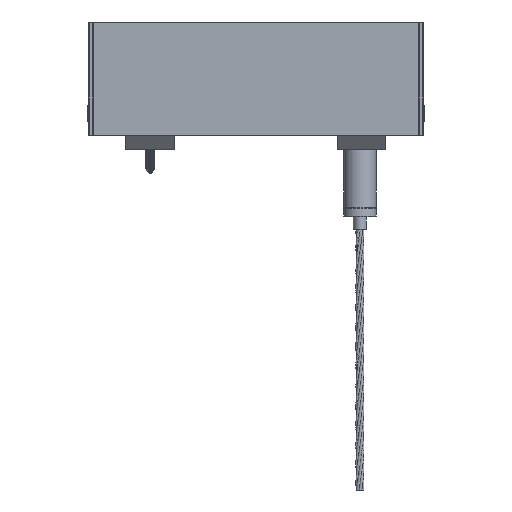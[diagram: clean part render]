
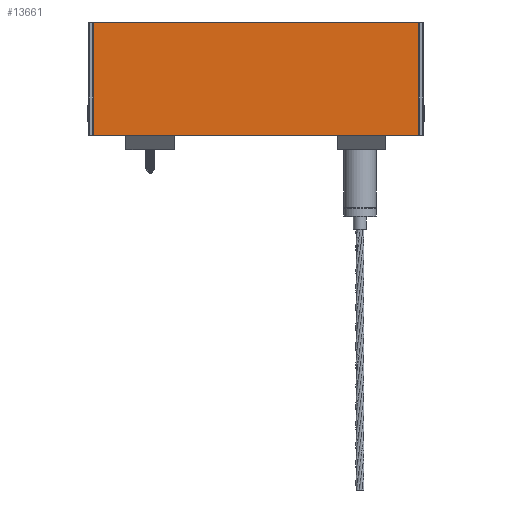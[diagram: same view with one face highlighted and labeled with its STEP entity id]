
A CAD part, left-side view. The second image highlights one B-rep face of the part: STEP entity #13661.
In plain terms, the highlighted planar face has unit normal (-1, 0, 0) as drawn and (1, 0, 0) by its records, which use the part's own axes.
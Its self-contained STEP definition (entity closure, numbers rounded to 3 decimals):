
#504=PLANE('',#14755);
#1082=FACE_OUTER_BOUND('',#1893,.T.);
#1893=EDGE_LOOP('',(#9840,#9841,#9842,#9843));
#2711=LINE('',#20377,#4172);
#2715=LINE('',#20386,#4176);
#2772=LINE('',#20805,#4233);
#2810=LINE('',#20907,#4271);
#4172=VECTOR('',#16132,10.);
#4176=VECTOR('',#16140,10.);
#4233=VECTOR('',#16305,10.);
#4271=VECTOR('',#16427,10.);
#6096=VERTEX_POINT('',#20370);
#6099=VERTEX_POINT('',#20375);
#6102=VERTEX_POINT('',#20385);
#6174=VERTEX_POINT('',#20801);
#7467=EDGE_CURVE('',#6099,#6096,#2711,.T.);
#7471=EDGE_CURVE('',#6096,#6102,#2715,.T.);
#7567=EDGE_CURVE('',#6102,#6174,#2772,.T.);
#7618=EDGE_CURVE('',#6174,#6099,#2810,.T.);
#9840=ORIENTED_EDGE('',*,*,#7467,.F.);
#9841=ORIENTED_EDGE('',*,*,#7618,.F.);
#9842=ORIENTED_EDGE('',*,*,#7567,.F.);
#9843=ORIENTED_EDGE('',*,*,#7471,.F.);
#13661=ADVANCED_FACE('',(#1082),#504,.T.);
#14755=AXIS2_PLACEMENT_3D('',#20906,#16425,#16426);
#16132=DIRECTION('',(0.,0.,-1.));
#16140=DIRECTION('',(0.,-1.,0.));
#16305=DIRECTION('',(0.,0.,1.));
#16425=DIRECTION('center_axis',(1.,0.,0.));
#16426=DIRECTION('ref_axis',(0.,1.,0.));
#16427=DIRECTION('',(0.,1.,0.));
#20370=CARTESIAN_POINT('',(17.5,34.75,-50.));
#20375=CARTESIAN_POINT('',(17.5,34.75,50.));
#20377=CARTESIAN_POINT('',(17.5,34.75,0.));
#20385=CARTESIAN_POINT('',(17.5,0.25,-50.));
#20386=CARTESIAN_POINT('',(17.5,4.,-50.));
#20801=CARTESIAN_POINT('',(17.5,0.25,50.));
#20805=CARTESIAN_POINT('',(17.5,0.25,0.));
#20906=CARTESIAN_POINT('Origin',(17.5,0.,0.));
#20907=CARTESIAN_POINT('',(17.5,1.,50.));
